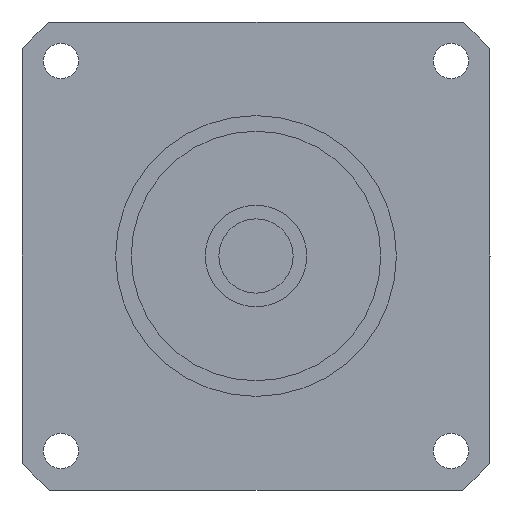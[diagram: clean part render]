
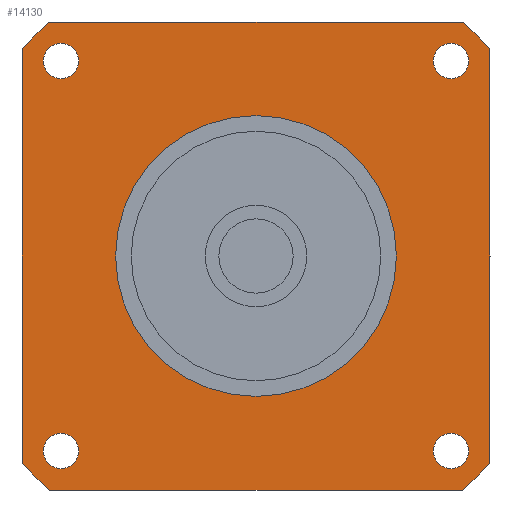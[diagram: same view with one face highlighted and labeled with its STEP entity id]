
A CAD part, left-side view. The second image highlights one B-rep face of the part: STEP entity #14130.
In plain terms, the highlighted planar face has unit normal (-1, 0, 0) as drawn and (0, 0, -1) by its records, which use the part's own axes.
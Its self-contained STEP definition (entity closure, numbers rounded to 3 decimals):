
#8940=CARTESIAN_POINT('',(22.75,-25.,-35.1));
#8950=VERTEX_POINT('',#8940);
#8980=CARTESIAN_POINT('',(25.,-25.,-35.1));
#8990=DIRECTION('',(0.,0.,-1.));
#9000=DIRECTION('',(1.,0.,0.));
#9010=AXIS2_PLACEMENT_3D('',#8980,#8990,#9000);
#9020=CIRCLE('',#9010,2.25);
#9030=CARTESIAN_POINT('',(27.25,-25.,-35.1));
#9040=VERTEX_POINT('',#9030);
#9050=EDGE_CURVE('',#9040,#8950,#9020,.T.);
#9290=CARTESIAN_POINT('',(-30.,-26.458,-35.1));
#9300=VERTEX_POINT('',#9290);
#9350=CARTESIAN_POINT('',(-30.,-30.,-35.1));
#9360=DIRECTION('',(0.,1.,0.));
#9370=VECTOR('',#9360,1000.);
#9380=LINE('',#9350,#9370);
#9390=CARTESIAN_POINT('',(-30.,26.458,-35.1));
#9400=VERTEX_POINT('',#9390);
#9410=EDGE_CURVE('',#9300,#9400,#9380,.T.);
#12650=CARTESIAN_POINT('',(-25.,-22.75,-35.1));
#12660=VERTEX_POINT('',#12650);
#12690=CARTESIAN_POINT('',(-25.,-25.,-35.1));
#12700=DIRECTION('',(0.,0.,-1.));
#12710=DIRECTION('',(0.,-1.,0.));
#12720=AXIS2_PLACEMENT_3D('',#12690,#12700,#12710);
#12730=CIRCLE('',#12720,2.25);
#12740=CARTESIAN_POINT('',(-25.,-27.25,-35.1));
#12750=VERTEX_POINT('',#12740);
#12760=EDGE_CURVE('',#12750,#12660,#12730,.T.);
#12880=CARTESIAN_POINT('',(30.,30.,-35.1));
#12890=DIRECTION('',(0.,0.,-1.));
#12900=DIRECTION('',(1.,0.,0.));
#12910=AXIS2_PLACEMENT_3D('',#12880,#12890,#12900);
#12920=PLANE('',#12910);
#12930=ORIENTED_EDGE('',*,*,#12760,.F.);
#12940=EDGE_CURVE('',#12660,#12750,#12730,.T.);
#12950=ORIENTED_EDGE('',*,*,#12940,.F.);
#12960=EDGE_LOOP('',(#12950,#12930));
#12970=FACE_BOUND('',#12960,.T.);
#12980=CARTESIAN_POINT('',(-25.,25.,-35.1));
#12990=DIRECTION('',(0.,0.,-1.));
#13000=DIRECTION('',(-1.,0.,0.));
#13010=AXIS2_PLACEMENT_3D('',#12980,#12990,#13000);
#13020=CIRCLE('',#13010,2.25);
#13030=CARTESIAN_POINT('',(-27.25,25.,-35.1));
#13040=VERTEX_POINT('',#13030);
#13050=CARTESIAN_POINT('',(-22.75,25.,-35.1));
#13060=VERTEX_POINT('',#13050);
#13070=EDGE_CURVE('',#13040,#13060,#13020,.T.);
#13080=ORIENTED_EDGE('',*,*,#13070,.F.);
#13090=EDGE_CURVE('',#13060,#13040,#13020,.T.);
#13100=ORIENTED_EDGE('',*,*,#13090,.F.);
#13110=EDGE_LOOP('',(#13100,#13080));
#13120=FACE_BOUND('',#13110,.T.);
#13130=CARTESIAN_POINT('',(25.,25.,-35.1));
#13140=DIRECTION('',(0.,0.,-1.));
#13150=DIRECTION('',(0.,1.,0.));
#13160=AXIS2_PLACEMENT_3D('',#13130,#13140,#13150);
#13170=CIRCLE('',#13160,2.25);
#13180=CARTESIAN_POINT('',(25.,27.25,-35.1));
#13190=VERTEX_POINT('',#13180);
#13200=CARTESIAN_POINT('',(25.,22.75,-35.1));
#13210=VERTEX_POINT('',#13200);
#13220=EDGE_CURVE('',#13190,#13210,#13170,.T.);
#13230=ORIENTED_EDGE('',*,*,#13220,.F.);
#13240=EDGE_CURVE('',#13210,#13190,#13170,.T.);
#13250=ORIENTED_EDGE('',*,*,#13240,.F.);
#13260=EDGE_LOOP('',(#13250,#13230));
#13270=FACE_BOUND('',#13260,.T.);
#13280=CARTESIAN_POINT('',(0.,0.,
-35.1));
#13290=DIRECTION('',(0.,0.,1.));
#13300=DIRECTION('',(0.,1.,0.));
#13310=AXIS2_PLACEMENT_3D('',#13280,#13290,#13300);
#13320=CIRCLE('',#13310,18.);
#13330=CARTESIAN_POINT('',(-18.,0.,-35.1));
#13340=VERTEX_POINT('',#13330);
#13350=CARTESIAN_POINT('',(18.,0.,-35.1));
#13360=VERTEX_POINT('',#13350);
#13370=EDGE_CURVE('',#13340,#13360,#13320,.T.);
#13380=ORIENTED_EDGE('',*,*,#13370,.T.);
#13390=CARTESIAN_POINT('',(0.,18.,-35.1));
#13400=VERTEX_POINT('',#13390);
#13410=EDGE_CURVE('',#13400,#13340,#13320,.T.);
#13420=ORIENTED_EDGE('',*,*,#13410,.T.);
#13430=EDGE_CURVE('',#13360,#13400,#13320,.T.);
#13440=ORIENTED_EDGE('',*,*,#13430,.T.);
#13450=EDGE_LOOP('',(#13440,#13420,#13380));
#13460=FACE_BOUND('',#13450,.T.);
#13470=CARTESIAN_POINT('',(-30.,30.,-35.1));
#13480=DIRECTION('',(1.,0.,0.));
#13490=VECTOR('',#13480,1000.);
#13500=LINE('',#13470,#13490);
#13510=CARTESIAN_POINT('',(-26.458,30.,-35.1));
#13520=VERTEX_POINT('',#13510);
#13530=CARTESIAN_POINT('',(26.458,30.,-35.1));
#13540=VERTEX_POINT('',#13530);
#13550=EDGE_CURVE('',#13520,#13540,#13500,.T.);
#13560=ORIENTED_EDGE('',*,*,#13550,.T.);
#13570=CARTESIAN_POINT('',(0.,0.,-35.1));
#13580=DIRECTION('',(0.,0.,-1.));
#13590=DIRECTION('',(1.,0.,0.));
#13600=AXIS2_PLACEMENT_3D('',#13570,#13580,#13590);
#13610=CIRCLE('',#13600,40.);
#13620=EDGE_CURVE('',#9400,#13520,#13610,.T.);
#13630=ORIENTED_EDGE('',*,*,#13620,.T.);
#13640=ORIENTED_EDGE('',*,*,#9410,.T.);
#13650=CARTESIAN_POINT('',(0.,0.,-35.1));
#13660=DIRECTION('',(0.,0.,-1.));
#13670=DIRECTION('',(1.,0.,0.));
#13680=AXIS2_PLACEMENT_3D('',#13650,#13660,#13670);
#13690=CIRCLE('',#13680,40.);
#13700=CARTESIAN_POINT('',(-26.458,-30.,-35.1));
#13710=VERTEX_POINT('',#13700);
#13720=EDGE_CURVE('',#13710,#9300,#13690,.T.);
#13730=ORIENTED_EDGE('',*,*,#13720,.T.);
#13740=CARTESIAN_POINT('',(30.,-30.,-35.1));
#13750=DIRECTION('',(-1.,0.,0.));
#13760=VECTOR('',#13750,1000.);
#13770=LINE('',#13740,#13760);
#13780=CARTESIAN_POINT('',(26.458,-30.,-35.1));
#13790=VERTEX_POINT('',#13780);
#13800=EDGE_CURVE('',#13790,#13710,#13770,.T.);
#13810=ORIENTED_EDGE('',*,*,#13800,.T.);
#13820=CARTESIAN_POINT('',(0.,0.,-35.1));
#13830=DIRECTION('',(0.,0.,-1.));
#13840=DIRECTION('',(1.,0.,0.));
#13850=AXIS2_PLACEMENT_3D('',#13820,#13830,#13840);
#13860=CIRCLE('',#13850,40.);
#13870=CARTESIAN_POINT('',(30.,-26.458,-35.1));
#13880=VERTEX_POINT('',#13870);
#13890=EDGE_CURVE('',#13880,#13790,#13860,.T.);
#13900=ORIENTED_EDGE('',*,*,#13890,.T.);
#13910=CARTESIAN_POINT('',(30.,30.,-35.1));
#13920=DIRECTION('',(0.,-1.,0.));
#13930=VECTOR('',#13920,1000.);
#13940=LINE('',#13910,#13930);
#13950=CARTESIAN_POINT('',(30.,26.458,-35.1));
#13960=VERTEX_POINT('',#13950);
#13970=EDGE_CURVE('',#13960,#13880,#13940,.T.);
#13980=ORIENTED_EDGE('',*,*,#13970,.T.);
#13990=CARTESIAN_POINT('',(0.,0.,-35.1));
#14000=DIRECTION('',(0.,0.,-1.));
#14010=DIRECTION('',(1.,0.,0.));
#14020=AXIS2_PLACEMENT_3D('',#13990,#14000,#14010);
#14030=CIRCLE('',#14020,40.);
#14040=EDGE_CURVE('',#13540,#13960,#14030,.T.);
#14050=ORIENTED_EDGE('',*,*,#14040,.T.);
#14060=EDGE_LOOP('',(#14050,#13980,#13900,#13810,#13730,#13640,#13630,
#13560));
#14070=FACE_OUTER_BOUND('',#14060,.T.);
#14080=ORIENTED_EDGE('',*,*,#9050,.F.);
#14090=EDGE_CURVE('',#8950,#9040,#9020,.T.);
#14100=ORIENTED_EDGE('',*,*,#14090,.F.);
#14110=EDGE_LOOP('',(#14100,#14080));
#14120=FACE_BOUND('',#14110,.T.);
#14130=ADVANCED_FACE('',(#12970,#13120,#13270,#13460,#14070,#14120),
#12920,.T.);
